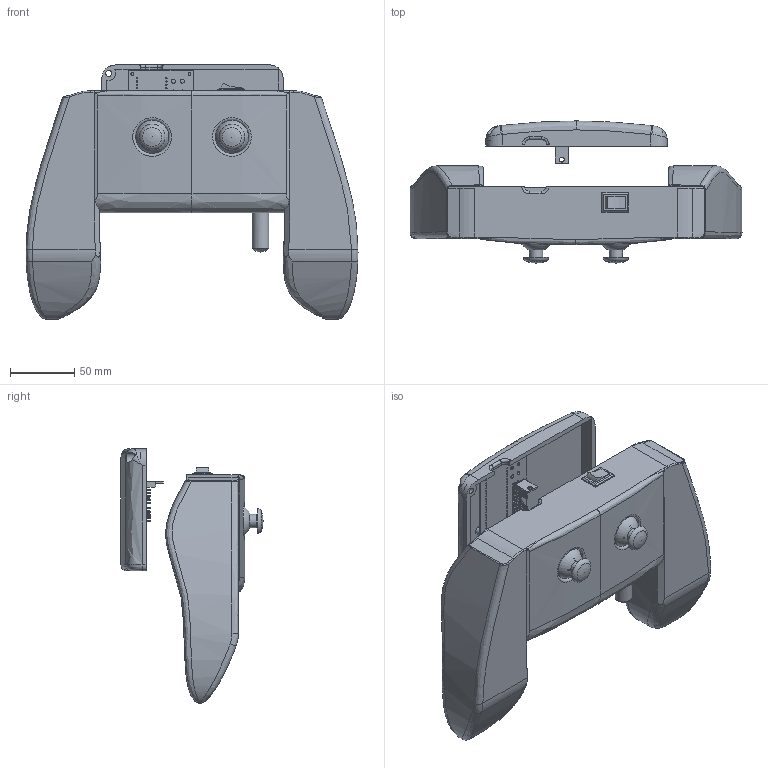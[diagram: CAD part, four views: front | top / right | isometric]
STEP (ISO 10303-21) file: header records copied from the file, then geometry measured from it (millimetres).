
FILE_DESCRIPTION(/* description */ ('STEP AP242','CAx-IF Rec.Pracs.---Representation and Presentation of Product Manufacturing Information (PMI)---4.0---2014-10-13','CAx-IF Rec.Pracs.---3D Tessellated Geometry---0.4---2014-09-14','2;1'),/* implementation_level */ '2;1');
FILE_NAME(/* name */ '6869de61e1723828ff557188',/* time_stamp */ '2025-07-06T02:24:35Z',/* author */ (''),/* organization */ (''),/* preprocessor_version */ 'ST-DEVELOPER v20',/* originating_system */ 'ONSHAPE BY PTC INC, 1.200',/* authorisation */ ' ');
FILE_SCHEMA (('AP242_MANAGED_MODEL_BASED_3D_ENGINEERING_MIM_LF { 1 0 10303 442 1 1 4 }'));
Products named in the file (26): Final Assembly; 5x_Ang_Conn; Tactile-Switch; TO-220-3_Vertical; Case; Potentiometer_02; Part 1; Baseplate; PinHeader_1x04_P2.54mm_Vertical; PCB; Thumb-Button; controller_PCB; PinHeader_1x02_P2.54mm_Vertical; Rotator-Unit; Potentiometer_01; PinHeader_1x05_P2.54mm_Vertical_1; PinHeader_1x05_P2.54mm_Vertical
Assembly tree (34 placements, depth 2):
  Final Assembly
    5x_Ang_Conn  x2
    Tactile-Switch  x2
    TO-220-3_Vertical
    Case  x2
    Potentiometer_02  x2
    Part 1
    Baseplate  x2
    PinHeader_1x04_P2.54mm_Vertical
    PCB  x2
    Part 1
    Part 1
    Thumb-Button  x2
    Part 1
    Part 1
    Part 1
    controller_PCB
    PinHeader_1x02_P2.54mm_Vertical
    Part 1
    Part 1
    Part 1
    Part 1
    Rotator-Unit  x2
    Potentiometer_01  x2
    PinHeader_1x05_P2.54mm_Vertical_1
    PinHeader_1x05_P2.54mm_Vertical
Bounding box: 258.33 x 110.53 x 198.02 mm (x, y, z)
Volume: 1022609.3 mm3; surface area: 216942.8 mm2
Topology: 34 solids, 34 shells, 3153 faces, 8134 edges, 5214 vertices
Faces by surface type: plane 1960, cylinder 812, bspline 221, torus 88, sphere 50, cone 22
Full cylindrical faces by diameter (mm): 0.8 x20, 1 x26, 1.04 x38, 1.092 x8, 1.1 x3, 1.3 x8, 1.98 x12, 2 x5, 2.2 x8, 2.5 x1, 2.8 x4, 3 x24, 3.5 x8, 3.735 x1, 3.9 x4, 4.4 x4, 4.5 x4, 4.6 x12, 5.6 x2, 6 x9, 6.9 x2, 7 x7, 7.8 x2, 9 x3, 10 x1, 10.5 x3, 12 x3, 13 x4, 14.5 x1, 15 x1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
Entity records: 77322 total; most frequent: CARTESIAN_POINT 26526, ORIENTED_EDGE 9948, DIRECTION 9082, EDGE_CURVE 4974, VERTEX_POINT 3320, LINE 3268, VECTOR 3268, AXIS2_PLACEMENT_3D 2907
